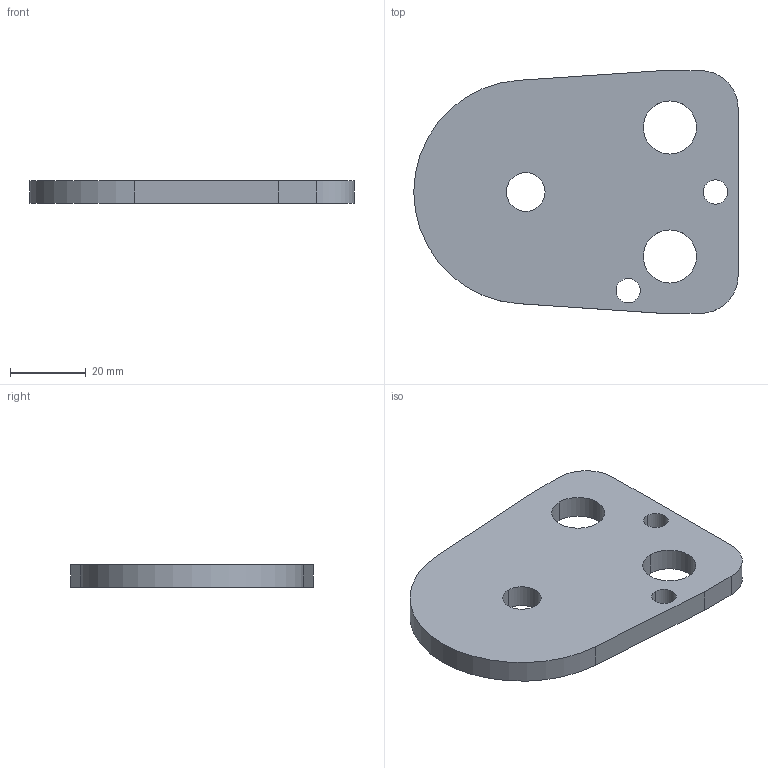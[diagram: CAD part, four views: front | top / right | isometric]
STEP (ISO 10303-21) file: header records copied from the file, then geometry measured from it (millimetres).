
FILE_DESCRIPTION(/* description */ (''),/* implementation_level */ '2;1');
FILE_NAME(/* name */ '3d_bpc45-6_03408_r00.stp',/* time_stamp */ '2011-01-10T14:17:09+09:00',/* author */ ('MISUMI'),/* organization */ (''),/* preprocessor_version */ 'ST-DEVELOPER v11',/* originating_system */ 'UGS - NX 5.0',/* authorisation */ '');
FILE_SCHEMA (('CONFIG_CONTROL_DESIGN'));
Length unit declared in the file: millimetre
Products named in the file (1): 3d_bpc45-6_03408_r00
Bounding box: 85.5 x 64 x 6 mm (x, y, z)
Volume: 26199.9 mm3; surface area: 11256.2 mm2
Topology: 1 solids, 1 shells, 20 faces, 54 edges, 36 vertices
Faces by surface type: cylinder 13, plane 7
Entity records: 750 total; most frequent: DIRECTION 122, CARTESIAN_POINT 111, ORIENTED_EDGE 108, EDGE_CURVE 54, AXIS2_PLACEMENT_3D 47, VERTEX_POINT 36, EDGE_LOOP 30, LINE 28
